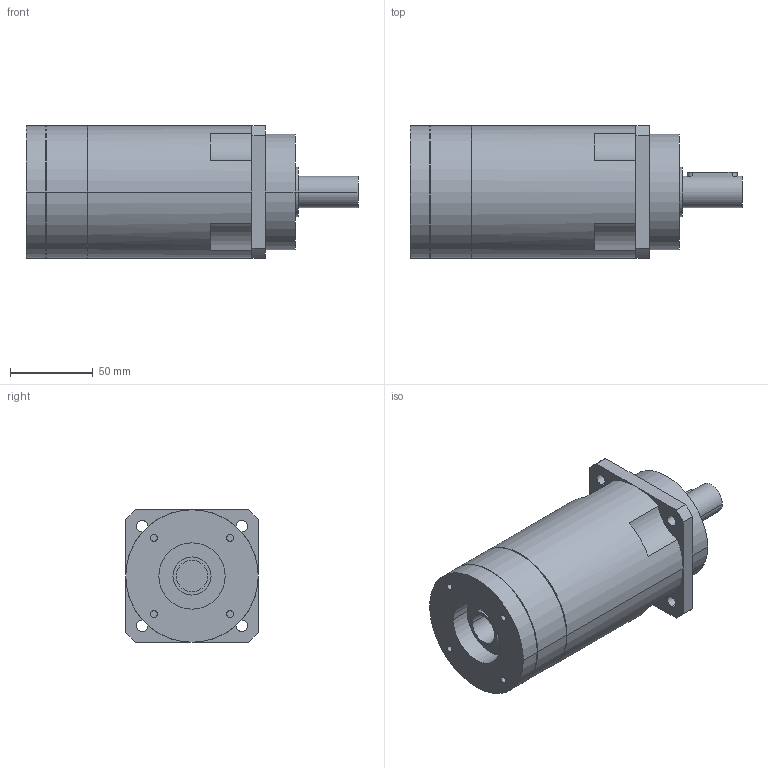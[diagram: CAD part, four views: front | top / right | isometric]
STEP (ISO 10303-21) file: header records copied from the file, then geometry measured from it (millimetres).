
FILE_DESCRIPTION(('CoCreate Modeling STEP Export'),'2;1');
FILE_NAME('GPR100_ig-48-64-80-100-120-144-180-216_19_B5_19_P26.stp','2014-08-26T11:56:29',(''),(''),'CoCreate Modeling STEP processor for AP214 (Solid Model)','CoCreate Modeling 16.00C 25-Feb-2009 (C) Parametric Technology GmbH','');
FILE_SCHEMA(('AUTOMOTIVE_DESIGN { 1 0 10303 214 1 1 1 1 }'));
Length unit declared in the file: millimetre
Products named in the file (2): GPR100_ig-48-64-80-100-120-144-180-216_19_B5_19_P26
Assembly tree (1 placements, depth 2):
  GPR100_ig-48-64-80-100-120-144-180-216_19_B5_19_P26
    GPR100_ig-48-64-80-100-120-144-180-216_19_B5_19_P26
Bounding box: 200.4 x 80 x 80 mm (x, y, z)
Volume: 784278.4 mm3; surface area: 62165.9 mm2
Topology: 1 solids, 1 shells, 81 faces, 211 edges, 143 vertices
Faces by surface type: cylinder 46, plane 29, cone 6
Entity records: 2239 total; most frequent: ORIENTED_EDGE 418, CARTESIAN_POINT 409, DIRECTION 326, EDGE_CURVE 209, VERTEX_POINT 143, AXIS2_PLACEMENT_3D 124, EDGE_LOOP 102, FACE_OUTER_BOUND 81
